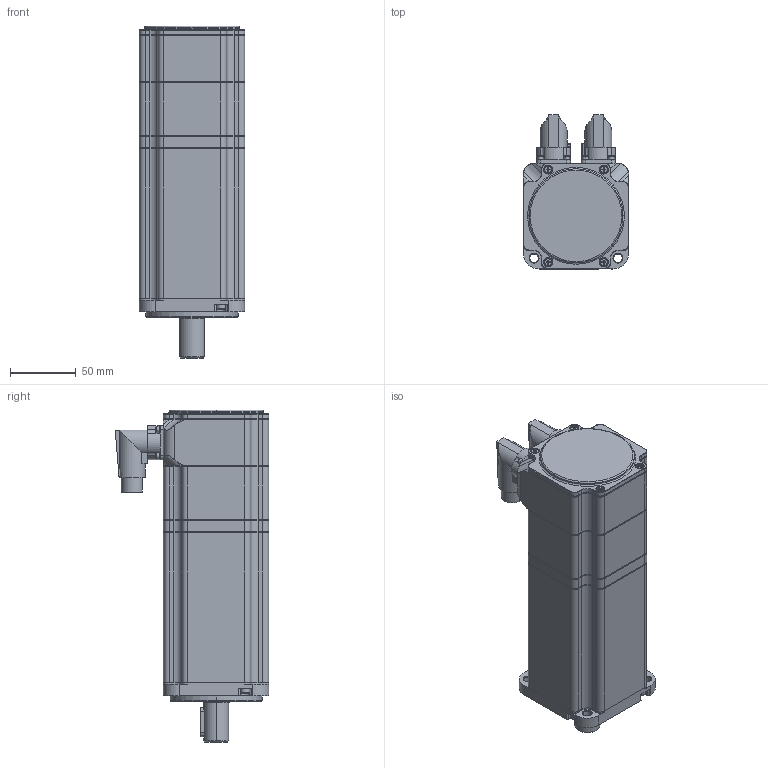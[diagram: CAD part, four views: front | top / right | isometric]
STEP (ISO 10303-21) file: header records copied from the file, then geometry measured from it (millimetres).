
FILE_DESCRIPTION (( 'STEP AP203' ), '1' );
FILE_NAME ('L80-1003026XBC（SMH80-1003026XBC-XX）.STEP', '2016-06-08T02:00:24', ( '微软用户' ), ( '微软中国' ), 'SwSTEP 2.0', 'SolidWorks 2011', '' );
FILE_SCHEMA (( 'CONFIG_CONTROL_DESIGN' ));
Length unit declared in the file: millimetre
Products named in the file (26): L80-1003026XBC（SMH80-1003026XBC-XX）; M17萇埭; M17陓瘍; spring lock washers--normal type gb_GB_FASTENER_WASHER_SW 2.5; hexagon socket head cap screws gb_GB_FASTENER_SCREWS_HSHCS M2.5X6-N; 嘎殤蚐猾; 价陬欶; circlips for holes--type a gb_GB_CONNECTING_PIECE_RING_RRH 42; 瑩; cross recessed countersunk head screws gb2_GB_CROSS_SCREWS_TYPE10 M3X8-6.35-H1-N; hexagon socket head cap screws gb_GB_FASTENER_SCREWS_HSHCS M4X35-N; 鎢攫欶綴裔; 躇猾菜; 鎢攫欶; 蛌赽軞傖_Default; 綴傷裔; deep groove ball bearings gb_Rolling bearings 6004 GB 276-94; deep groove ball bearings gb_Rolling bearings 6002 GB 276-94; circlips for shaft--type a large gb_GB_CONNECTING_PIECE_RING_RRA 15; 蛌赽郪璃_Default; 蛌粣; 隅赽軞傖_Default; hexagon socket head cap screws gb_GB_FASTENER_SCREWS_HSHCS M4X16-N; ヶ傷裔И璃; 儂褲; ヶ傷裔
Assembly tree (59 placements, depth 4):
  L80-1003026XBC（SMH80-1003026XBC-XX）
    蛌赽軞傖_Default
      蛌赽郪璃_Default
        蛌粣
      綴傷裔
      deep groove ball bearings gb_Rolling bearings 6004 GB 276-94
      deep groove ball bearings gb_Rolling bearings 6002 GB 276-94
      circlips for shaft--type a large gb_GB_CONNECTING_PIECE_RING_RRA 15
    hexagon socket head cap screws gb_GB_FASTENER_SCREWS_HSHCS M2.5X6-N  x8
    spring lock washers--normal type gb_GB_FASTENER_WASHER_SW 2.5  x8
    M17陓瘍
    hexagon socket head cap screws gb_GB_FASTENER_SCREWS_HSHCS M4X16-N  x4
    嘎殤蚐猾
    hexagon socket head cap screws gb_GB_FASTENER_SCREWS_HSHCS M4X35-N  x8
    价陬欶
    M17萇埭
    躇猾菜  x4
    circlips for holes--type a gb_GB_CONNECTING_PIECE_RING_RRH 42
    瑩
    cross recessed countersunk head screws gb2_GB_CROSS_SCREWS_TYPE10 M3X8-6.35-H1-N  x4
    鎢攫欶綴裔
    鎢攫欶
    隅赽軞傖_Default
      ヶ傷裔
      hexagon socket head cap screws gb_GB_FASTENER_SCREWS_HSHCS M4X16-N  x4
      ヶ傷裔И璃
      儂褲
Bounding box: 80 x 116.6 x 252.1 mm (x, y, z)
Volume: 452169.9 mm3; surface area: 245634 mm2
Topology: 56 solids, 56 shells, 2626 faces, 7159 edges, 4586 vertices
Faces by surface type: cylinder 1050, plane 996, cone 225, torus 203, sphere 86, bspline 66
Entity records: 67749 total; most frequent: CARTESIAN_POINT 16903, DIRECTION 10171, ORIENTED_EDGE 9882, EDGE_CURVE 4941, AXIS2_PLACEMENT_3D 4067, VERTEX_POINT 3237, CIRCLE 2244, EDGE_LOOP 2110
